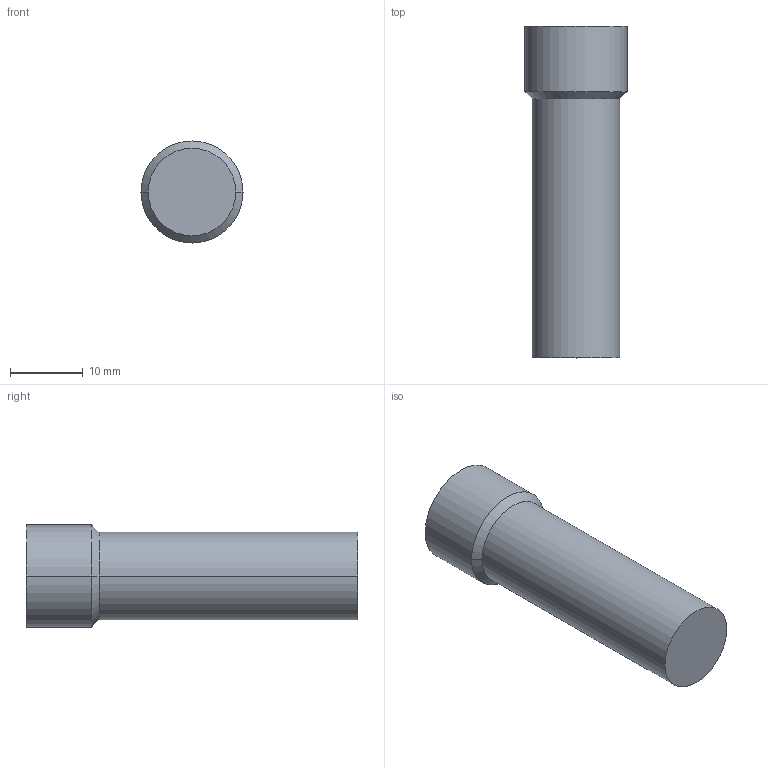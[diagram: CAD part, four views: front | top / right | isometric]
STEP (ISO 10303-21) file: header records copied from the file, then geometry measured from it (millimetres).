
FILE_DESCRIPTION( ( '' ), '1' );
FILE_NAME( 'G:/SMC狟婥/KPP-12.stp', '2023-03-08T05:54:36', ( '' ), ( '' ), ' ', ' ', ' ' );
FILE_SCHEMA( ( 'CONFIG_CONTROL_DESIGN' ) );
Length unit declared in the file: millimetre
Products named in the file (1): 1
Bounding box: 14 x 45.5 x 14 mm (x, y, z)
Volume: 5533.4 mm3; surface area: 2059 mm2
Topology: 1 solids, 1 shells, 8 faces, 14 edges, 8 vertices
Faces by surface type: cylinder 4, cone 2, plane 2
Entity records: 238 total; most frequent: DIRECTION 40, CARTESIAN_POINT 31, ORIENTED_EDGE 28, AXIS2_PLACEMENT_3D 17, EDGE_CURVE 14, ADVANCED_FACE 8, FACE_OUTER_BOUND 8, EDGE_LOOP 8
